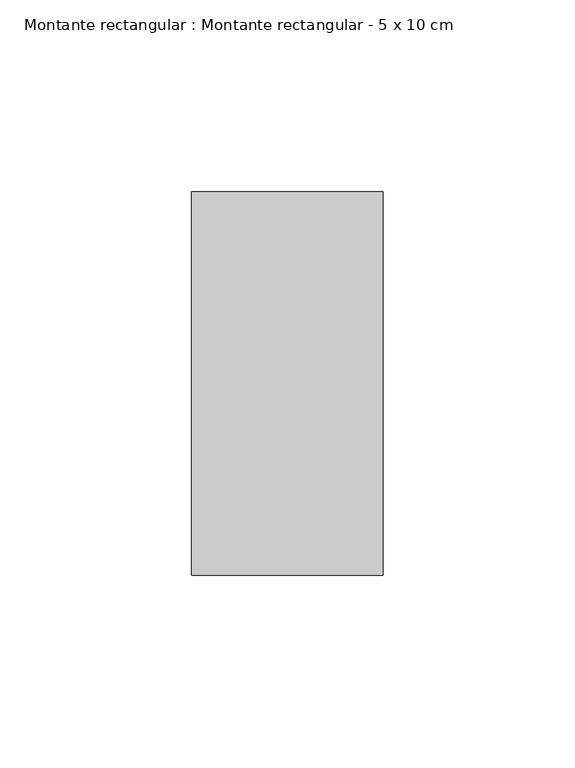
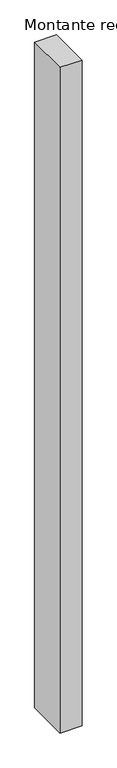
"""IFC4 building model written with IfcOpenShell, lengths in millimetres: member geometry, Montante rectangular : Montante rectangular - 5 x 10 cm."""

import ifcopenshell
import ifcopenshell.guid

model = None  # the IFC model being written
_history = None  # IfcOwnerHistory: only IFC2X3 demands one
_inside = {}  # id of a spatial element -> (the spatial element, [elements in it])
_under = {}  # id of a project, library or spatial element -> (it, [spatial elements below it])
_declared = {}  # id of a project -> (the project, [libraries it declares])
_typed = {}  # id of a type object -> (the type object, [elements of that type])
_made_of = {}  # id of a material, layer set ... -> (it, [elements and type objects made of it])


def new_model(schema):
    """Start an empty IFC model of exactly this schema.

    Asked for "IFC4X3", IfcOpenShell would pick the latest addendum, in which some entities
    have other attributes; the version numbers below select the first issue.
    IFC2X3 requires an IfcOwnerHistory on every rooted entity: one is made here for all.
    """
    global model, _history
    if schema == "IFC4X3":
        model = ifcopenshell.file(schema_version=(4, 3, 0, 0))
    else:
        model = ifcopenshell.file(schema=schema)
    _inside.clear()
    _under.clear()
    _declared.clear()
    _typed.clear()
    _made_of.clear()
    _history = None
    if model.schema == "IFC2X3":
        org = make("IfcOrganization", Name="unknown")
        user = make(
            "IfcPersonAndOrganization",
            ThePerson=make("IfcPerson", FamilyName="unknown"),
            TheOrganization=org,
        )
        app = make(
            "IfcApplication",
            ApplicationDeveloper=org,
            Version="unknown",
            ApplicationFullName="unknown",
            ApplicationIdentifier="unknown",
        )
        _history = make(
            "IfcOwnerHistory",
            OwningUser=user,
            OwningApplication=app,
            ChangeAction="ADDED",
            CreationDate=0,
        )
    return model


def make(cls, **values):
    """One entity of the class cls with the attributes given. An attribute that is None is left unset."""
    return model.create_entity(
        cls, **{name: value for name, value in values.items() if value is not None}
    )


def rooted(cls, **values):
    """An entity with a GlobalId (a new one), such as an element, a storey or a relation."""
    return make(cls, GlobalId=ifcopenshell.guid.new(), OwnerHistory=_history, **values)


def si_unit(unit_type, name, prefix=None):
    """IfcSIUnit, for example si_unit("LENGTHUNIT", "METRE", prefix="MILLI")."""
    return make("IfcSIUnit", UnitType=unit_type, Prefix=prefix, Name=name)


def assignment(units):
    """IfcUnitAssignment: the units of a project."""
    return None if units is None else make("IfcUnitAssignment", Units=units)


def point(xyz):
    """IfcCartesianPoint."""
    return None if xyz is None else make("IfcCartesianPoint", Coordinates=xyz)


def direction(xyz):
    """IfcDirection."""
    return None if xyz is None else make("IfcDirection", DirectionRatios=xyz)


def frame(location, z_axis=None, x_axis=None):
    """IfcAxis2Placement3D, a coordinate frame: its origin and axes. An axis left out is left unset."""
    return make(
        "IfcAxis2Placement3D",
        Location=point(location),
        Axis=direction(z_axis),
        RefDirection=direction(x_axis),
    )


def origin():
    """The frame at (0, 0, 0) with its axes left unset."""
    return frame((0.0, 0.0, 0.0))


def place(relative_to, where):
    """IfcLocalPlacement: puts the frame where relative to a parent placement (None: the world)."""
    return make(
        "IfcLocalPlacement", PlacementRelTo=relative_to, RelativePlacement=where
    )


def context(
    kind, dimensions, precision=None, world=None, true_north=None, identifier=None
):
    """IfcGeometricRepresentationContext, for example the 3D "Model" context."""
    return make(
        "IfcGeometricRepresentationContext",
        ContextIdentifier=identifier,
        ContextType=kind,
        CoordinateSpaceDimension=dimensions,
        Precision=precision,
        WorldCoordinateSystem=world,
        TrueNorth=true_north,
    )


def project(units=None, contexts=None):
    """IfcProject with its units and contexts."""
    return rooted(
        "IfcProject",
        Name="project",
        RepresentationContexts=contexts,
        UnitsInContext=assignment(units),
    )


def spatial(cls, under=None, at=None, **own):
    """A site, building, storey or space (cls), placed at a placement, below another one or the project."""
    s = rooted(cls, ObjectPlacement=at, **own)
    if under is not None:
        _under.setdefault(under.id(), (under, []))[1].append(s)
    return s


def polyline(points):
    """IfcPolyline through the points."""
    return make("IfcPolyline", Points=[point(p) for p in points])


def outline(outer, holes=None, kind="AREA"):
    """IfcArbitraryClosedProfileDef: a profile drawn as a closed curve; with holes, ...WithVoids."""
    if holes is None:
        return make("IfcArbitraryClosedProfileDef", ProfileType=kind, OuterCurve=outer)
    return make(
        "IfcArbitraryProfileDefWithVoids",
        ProfileType=kind,
        OuterCurve=outer,
        InnerCurves=holes,
    )


def extrude(swept, where, along, depth):
    """IfcExtrudedAreaSolid: the profile swept, set in the frame where, extruded along a direction by depth."""
    return make(
        "IfcExtrudedAreaSolid",
        SweptArea=swept,
        Position=where,
        ExtrudedDirection=direction(along),
        Depth=depth,
    )


def shape(context_of_items, identifier, shape_type, items):
    """IfcShapeRepresentation: the items that make up one representation, for example the "Body"."""
    return make(
        "IfcShapeRepresentation",
        ContextOfItems=context_of_items,
        RepresentationIdentifier=identifier,
        RepresentationType=shape_type,
        Items=items,
    )


def source(mapping_origin, context_of_items, identifier, shape_type, items):
    """IfcRepresentationMap: a shape defined once, which mapped items show again and again."""
    return make(
        "IfcRepresentationMap",
        MappingOrigin=mapping_origin,
        MappedRepresentation=shape(context_of_items, identifier, shape_type, items),
    )


def transform(
    local_origin,
    x_axis=None,
    y_axis=None,
    z_axis=None,
    scale=None,
    scale2=None,
    scale3=None,
    uniform=True,
):
    """IfcCartesianTransformationOperator3D, or its non-uniform kind. x_axis, y_axis, z_axis: its Axis1, 2, 3."""
    if uniform:
        return make(
            "IfcCartesianTransformationOperator3D",
            Axis1=direction(x_axis),
            Axis2=direction(y_axis),
            LocalOrigin=point(local_origin),
            Scale=scale,
            Axis3=direction(z_axis),
        )
    return make(
        "IfcCartesianTransformationOperator3DnonUniform",
        Axis1=direction(x_axis),
        Axis2=direction(y_axis),
        LocalOrigin=point(local_origin),
        Scale=scale,
        Axis3=direction(z_axis),
        Scale2=scale2,
        Scale3=scale3,
    )


def mapped(mapping_source, mapping_target):
    """IfcMappedItem: shows the shape of a source again, moved by a transform."""
    return make(
        "IfcMappedItem", MappingSource=mapping_source, MappingTarget=mapping_target
    )


def made_of(thing, what):
    """Note that an element or type object is made of a material, layer set ...; save() writes the relation."""
    if what is not None:
        _made_of.setdefault(what.id(), (what, []))[1].append(thing)
    return thing


def element(
    cls,
    number,
    at=None,
    inside=None,
    cuts=None,
    type_object=None,
    material=None,
    context=None,
    identifier="Body",
    shape_type=None,
    held_by="IfcProductDefinitionShape",
    body=None,
    shapes=None,
    **own,
):
    """One element of the class cls, such as IfcWall. Its Tag is "e" and its number.

    at: its placement. inside: the storey or other place that contains it. cuts: it is an
    opening in that element (IfcRelVoidsElement). A single representation is given by context,
    identifier, shape_type and body (its items); several are given by shapes. held_by: the class
    of the entity that holds the representations. save() writes the other relations.
    """
    e = rooted(cls, Tag="e%d" % number, ObjectPlacement=at, **own)
    if body is not None:
        shapes = [shape(context, identifier, shape_type, body)]
    if shapes is not None:
        e.Representation = make(held_by, Representations=shapes)
    if inside is not None:
        _inside.setdefault(inside.id(), (inside, []))[1].append(e)
    if cuts is not None:
        rooted(
            "IfcRelVoidsElement", RelatingBuildingElement=cuts, RelatedOpeningElement=e
        )
    if type_object is not None:
        _typed.setdefault(type_object.id(), (type_object, []))[1].append(e)
    return made_of(e, material)


def aggregate(whole, parts):
    """IfcRelAggregates: a whole, such as a stair, and the parts it consists of."""
    return rooted("IfcRelAggregates", RelatingObject=whole, RelatedObjects=parts)


def save(model, path):
    """Write the relations noted so far, then the file.

    IfcRelAggregates (storeys below a building ...), IfcRelContainedInSpatialStructure (elements
    in a storey), IfcRelDefinesByType, IfcRelAssociatesMaterial and IfcRelDeclares: one each for
    every whole, place, type object, material and project.
    """
    for whole, parts in _under.values():
        aggregate(whole, parts)
    for where, things in _inside.values():
        rooted(
            "IfcRelContainedInSpatialStructure",
            RelatedElements=things,
            RelatingStructure=where,
        )
    for kind, things in _typed.values():
        rooted("IfcRelDefinesByType", RelatedObjects=things, RelatingType=kind)
    for what, things in _made_of.values():
        rooted("IfcRelAssociatesMaterial", RelatedObjects=things, RelatingMaterial=what)
    for by, libraries in _declared.values():
        rooted("IfcRelDeclares", RelatingContext=by, RelatedDefinitions=libraries)
    model.write(path)


def montante_rectangular_montante_rectangular_5_x_10_cm_63168a03(model_context):
    return source(origin(), model_context, "Body", "SweptSolid", [
        extrude(outline(polyline([(25.0, 50.0), (25.0, -50.0), (-25.0, -50.0), (-25.0, 50.0), (25.0, 50.0)])), frame((0.0, 0.0, -1600.0), z_axis=(0.0, 0.0, 1.0), x_axis=(1.0, 0.0, 0.0)), (0.0, 0.0, 1.0), 1600.0),
    ])


if __name__ == "__main__":
    model = new_model("IFC4")
    model_context = context("Model", 3, world=origin())
    ifc_project = project(units=[si_unit("LENGTHUNIT", "METRE", prefix="MILLI")], contexts=[model_context])
    site = spatial("IfcSite", under=ifc_project)
    building = spatial("IfcBuilding", under=site)
    placement = place(None, origin())
    montante_rectangular_montante_rectangular_5_x_10_cm_shape = montante_rectangular_montante_rectangular_5_x_10_cm_63168a03(model_context)
    element("IfcMember", 1, ObjectType="Montante rectangular : Montante rectangular - 5 x 10 cm", at=placement, inside=building, context=model_context, shape_type="MappedRepresentation", body=[
        mapped(montante_rectangular_montante_rectangular_5_x_10_cm_shape, transform((0.0, 0.0, 0.0), x_axis=(1.0, 0.0, 0.0), y_axis=(0.0, 1.0, 0.0), z_axis=(0.0, 0.0, 1.0))),
    ])
    save(model, "model.ifc")
